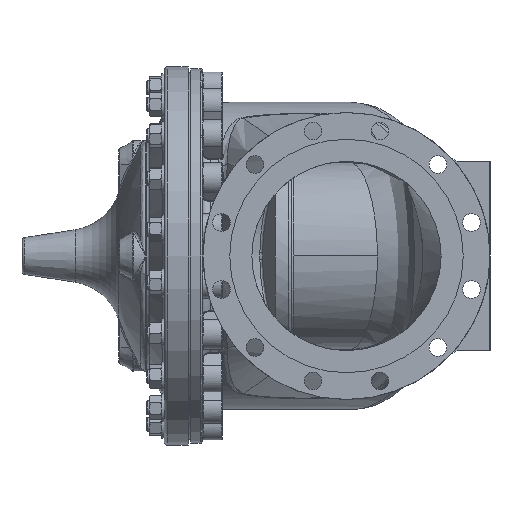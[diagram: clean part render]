
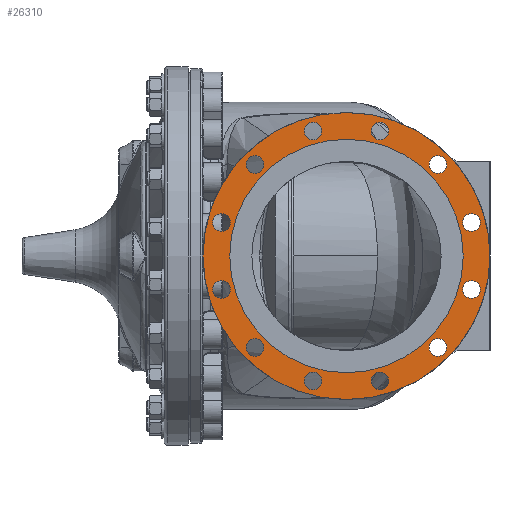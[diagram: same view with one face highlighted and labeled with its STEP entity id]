
A CAD part, left-side view. The second image highlights one B-rep face of the part: STEP entity #26310.
In plain terms, the highlighted planar face has unit normal (-1, 0, 0).
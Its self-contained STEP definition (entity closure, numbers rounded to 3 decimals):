
#1560=FACE_BOUND('',#4812,.T.);
#1561=FACE_BOUND('',#4813,.T.);
#1562=FACE_BOUND('',#4814,.T.);
#1563=FACE_BOUND('',#4815,.T.);
#1564=FACE_BOUND('',#4816,.T.);
#1565=FACE_BOUND('',#4817,.T.);
#1566=FACE_BOUND('',#4818,.T.);
#1567=FACE_BOUND('',#4819,.T.);
#1568=FACE_BOUND('',#4820,.T.);
#1569=FACE_BOUND('',#4821,.T.);
#1570=FACE_BOUND('',#4822,.T.);
#1571=FACE_BOUND('',#4823,.T.);
#1572=FACE_BOUND('',#4824,.T.);
#1882=PLANE('',#29056);
#3015=FACE_OUTER_BOUND('',#4811,.T.);
#4811=EDGE_LOOP('',(#21339));
#4812=EDGE_LOOP('',(#21340));
#4813=EDGE_LOOP('',(#21341));
#4814=EDGE_LOOP('',(#21342));
#4815=EDGE_LOOP('',(#21343));
#4816=EDGE_LOOP('',(#21344));
#4817=EDGE_LOOP('',(#21345));
#4818=EDGE_LOOP('',(#21346));
#4819=EDGE_LOOP('',(#21347));
#4820=EDGE_LOOP('',(#21348));
#4821=EDGE_LOOP('',(#21349));
#4822=EDGE_LOOP('',(#21350));
#4823=EDGE_LOOP('',(#21351));
#4824=EDGE_LOOP('',(#21352));
#6178=CIRCLE('',#28036,14.);
#6180=CIRCLE('',#28039,14.);
#6182=CIRCLE('',#28042,14.);
#6184=CIRCLE('',#28045,14.);
#6186=CIRCLE('',#28048,14.);
#6188=CIRCLE('',#28051,14.);
#6190=CIRCLE('',#28054,14.);
#6192=CIRCLE('',#28057,14.);
#6194=CIRCLE('',#28060,14.);
#6196=CIRCLE('',#28063,14.);
#6198=CIRCLE('',#28066,14.);
#6200=CIRCLE('',#28069,14.);
#6782=CIRCLE('',#29045,227.5);
#6784=CIRCLE('',#29054,185.);
#10895=VERTEX_POINT('',#42184);
#10897=VERTEX_POINT('',#42190);
#10899=VERTEX_POINT('',#42196);
#10901=VERTEX_POINT('',#42202);
#10903=VERTEX_POINT('',#42208);
#10905=VERTEX_POINT('',#42214);
#10907=VERTEX_POINT('',#42220);
#10909=VERTEX_POINT('',#42226);
#10911=VERTEX_POINT('',#42232);
#10913=VERTEX_POINT('',#42238);
#10915=VERTEX_POINT('',#42244);
#10917=VERTEX_POINT('',#42250);
#11714=VERTEX_POINT('',#54779);
#11716=VERTEX_POINT('',#54793);
#13786=EDGE_CURVE('',#10895,#10895,#6178,.T.);
#13789=EDGE_CURVE('',#10897,#10897,#6180,.T.);
#13792=EDGE_CURVE('',#10899,#10899,#6182,.T.);
#13795=EDGE_CURVE('',#10901,#10901,#6184,.T.);
#13798=EDGE_CURVE('',#10903,#10903,#6186,.T.);
#13801=EDGE_CURVE('',#10905,#10905,#6188,.T.);
#13804=EDGE_CURVE('',#10907,#10907,#6190,.T.);
#13807=EDGE_CURVE('',#10909,#10909,#6192,.T.);
#13810=EDGE_CURVE('',#10911,#10911,#6194,.T.);
#13813=EDGE_CURVE('',#10913,#10913,#6196,.T.);
#13816=EDGE_CURVE('',#10915,#10915,#6198,.T.);
#13819=EDGE_CURVE('',#10917,#10917,#6200,.T.);
#15134=EDGE_CURVE('',#11714,#11714,#6782,.T.);
#15138=EDGE_CURVE('',#11716,#11716,#6784,.T.);
#21339=ORIENTED_EDGE('',*,*,#15134,.F.);
#21340=ORIENTED_EDGE('',*,*,#13786,.T.);
#21341=ORIENTED_EDGE('',*,*,#13789,.T.);
#21342=ORIENTED_EDGE('',*,*,#13792,.T.);
#21343=ORIENTED_EDGE('',*,*,#13795,.T.);
#21344=ORIENTED_EDGE('',*,*,#13798,.T.);
#21345=ORIENTED_EDGE('',*,*,#13801,.T.);
#21346=ORIENTED_EDGE('',*,*,#13804,.T.);
#21347=ORIENTED_EDGE('',*,*,#13807,.T.);
#21348=ORIENTED_EDGE('',*,*,#13810,.T.);
#21349=ORIENTED_EDGE('',*,*,#13813,.T.);
#21350=ORIENTED_EDGE('',*,*,#13816,.T.);
#21351=ORIENTED_EDGE('',*,*,#13819,.T.);
#21352=ORIENTED_EDGE('',*,*,#15138,.F.);
#26310=ADVANCED_FACE('',(#3015,#1560,#1561,#1562,#1563,#1564,#1565,#1566,
#1567,#1568,#1569,#1570,#1571,#1572),#1882,.F.);
#28036=AXIS2_PLACEMENT_3D('',#42185,#32427,#32428);
#28039=AXIS2_PLACEMENT_3D('',#42191,#32434,#32435);
#28042=AXIS2_PLACEMENT_3D('',#42197,#32441,#32442);
#28045=AXIS2_PLACEMENT_3D('',#42203,#32448,#32449);
#28048=AXIS2_PLACEMENT_3D('',#42209,#32455,#32456);
#28051=AXIS2_PLACEMENT_3D('',#42215,#32462,#32463);
#28054=AXIS2_PLACEMENT_3D('',#42221,#32469,#32470);
#28057=AXIS2_PLACEMENT_3D('',#42227,#32476,#32477);
#28060=AXIS2_PLACEMENT_3D('',#42233,#32483,#32484);
#28063=AXIS2_PLACEMENT_3D('',#42239,#32490,#32491);
#28066=AXIS2_PLACEMENT_3D('',#42245,#32497,#32498);
#28069=AXIS2_PLACEMENT_3D('',#42251,#32504,#32505);
#29045=AXIS2_PLACEMENT_3D('',#54781,#34804,#34805);
#29054=AXIS2_PLACEMENT_3D('',#54794,#34824,#34825);
#29056=AXIS2_PLACEMENT_3D('',#54798,#34829,#34830);
#32427=DIRECTION('center_axis',(1.,0.,0.));
#32428=DIRECTION('ref_axis',(0.,0.5,0.866));
#32434=DIRECTION('center_axis',(1.,0.,0.));
#32435=DIRECTION('ref_axis',(0.,0.866,0.5));
#32441=DIRECTION('center_axis',(1.,0.,0.));
#32442=DIRECTION('ref_axis',(0.,1.,0.));
#32448=DIRECTION('center_axis',(1.,0.,0.));
#32449=DIRECTION('ref_axis',(0.,0.866,-0.5));
#32455=DIRECTION('center_axis',(1.,0.,0.));
#32456=DIRECTION('ref_axis',(0.,0.5,-0.866));
#32462=DIRECTION('center_axis',(1.,0.,0.));
#32463=DIRECTION('ref_axis',(0.,0.,
-1.));
#32469=DIRECTION('center_axis',(1.,0.,0.));
#32470=DIRECTION('ref_axis',(0.,-0.5,-0.866));
#32476=DIRECTION('center_axis',(1.,0.,0.));
#32477=DIRECTION('ref_axis',(0.,-0.866,-0.5));
#32483=DIRECTION('center_axis',(1.,0.,0.));
#32484=DIRECTION('ref_axis',(0.,-1.,0.));
#32490=DIRECTION('center_axis',(1.,0.,0.));
#32491=DIRECTION('ref_axis',(0.,-0.866,0.5));
#32497=DIRECTION('center_axis',(1.,0.,0.));
#32498=DIRECTION('ref_axis',(0.,-0.5,0.866));
#32504=DIRECTION('center_axis',(1.,0.,0.));
#32505=DIRECTION('ref_axis',(0.,0.,
1.));
#34804=DIRECTION('center_axis',(1.,0.,0.));
#34805=DIRECTION('ref_axis',(0.,0.,
-1.));
#34824=DIRECTION('center_axis',(-1.,0.,0.));
#34825=DIRECTION('ref_axis',(0.,0.,
-1.));
#34829=DIRECTION('center_axis',(1.,0.,0.));
#34830=DIRECTION('ref_axis',(0.,0.,
-1.));
#42184=CARTESIAN_POINT('',(-421.,-376.32,132.833));
#42185=CARTESIAN_POINT('Origin',(-421.,-369.32,144.957));
#42190=CARTESIAN_POINT('',(-421.,-328.387,46.058));
#42191=CARTESIAN_POINT('Origin',(-421.,-316.262,53.058));
#42196=CARTESIAN_POINT('',(-421.,-330.262,-53.058));
#42197=CARTESIAN_POINT('Origin',(-421.,-316.262,-53.058));
#42202=CARTESIAN_POINT('',(-421.,-381.444,-137.957));
#42203=CARTESIAN_POINT('Origin',(-421.,-369.32,-144.957));
#42208=CARTESIAN_POINT('',(-421.,-468.219,-185.89));
#42209=CARTESIAN_POINT('Origin',(-421.,-461.219,-198.015));
#42214=CARTESIAN_POINT('',(-421.,-567.335,-184.015));
#42215=CARTESIAN_POINT('Origin',(-421.,-567.335,-198.015));
#42220=CARTESIAN_POINT('',(-421.,-652.234,-132.833));
#42221=CARTESIAN_POINT('Origin',(-421.,-659.234,-144.957));
#42226=CARTESIAN_POINT('',(-421.,-700.167,-46.058));
#42227=CARTESIAN_POINT('Origin',(-421.,-712.292,-53.058));
#42232=CARTESIAN_POINT('',(-421.,-698.292,53.058));
#42233=CARTESIAN_POINT('Origin',(-421.,-712.292,53.058));
#42238=CARTESIAN_POINT('',(-421.,-647.11,137.957));
#42239=CARTESIAN_POINT('Origin',(-421.,-659.234,144.957));
#42244=CARTESIAN_POINT('',(-421.,-560.335,185.89));
#42245=CARTESIAN_POINT('Origin',(-421.,-567.335,198.015));
#42250=CARTESIAN_POINT('',(-421.,-461.219,184.015));
#42251=CARTESIAN_POINT('Origin',(-421.,-461.219,198.015));
#54779=CARTESIAN_POINT('',(-421.,-514.277,227.5));
#54781=CARTESIAN_POINT('Origin',(-421.,-514.277,0.));
#54793=CARTESIAN_POINT('',(-421.,-514.277,185.));
#54794=CARTESIAN_POINT('Origin',(-421.,-514.277,0.));
#54798=CARTESIAN_POINT('Origin',(-421.,-514.277,0.));
